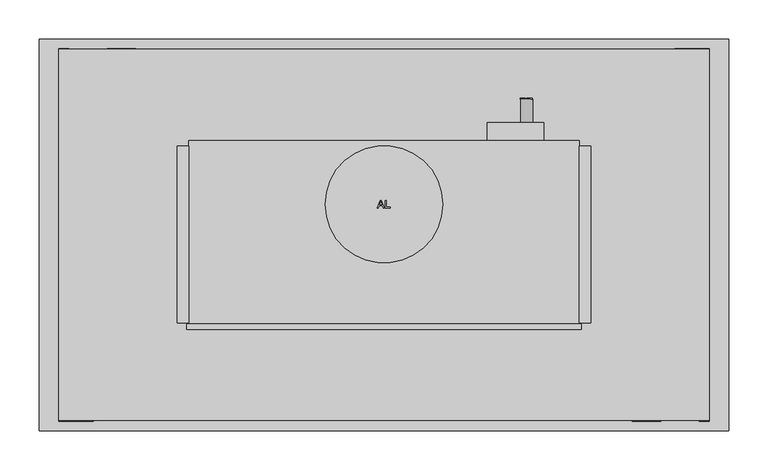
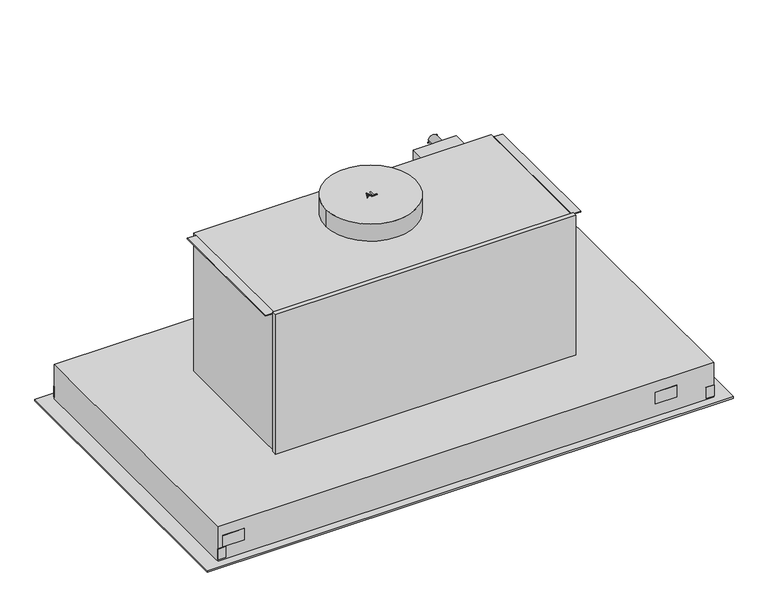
"""IFC4 building model written with IfcOpenShell, lengths in millimetres: proxy geometry, 10847540_I_DA2808_EDST : 28280855_I_10847540_DA2808_EDST."""

import ifcopenshell
import ifcopenshell.guid

model = None  # the IFC model being written
_history = None  # IfcOwnerHistory: only IFC2X3 demands one
_inside = {}  # id of a spatial element -> (the spatial element, [elements in it])
_under = {}  # id of a project, library or spatial element -> (it, [spatial elements below it])
_declared = {}  # id of a project -> (the project, [libraries it declares])
_typed = {}  # id of a type object -> (the type object, [elements of that type])
_made_of = {}  # id of a material, layer set ... -> (it, [elements and type objects made of it])


def new_model(schema):
    """Start an empty IFC model of exactly this schema.

    Asked for "IFC4X3", IfcOpenShell would pick the latest addendum, in which some entities
    have other attributes; the version numbers below select the first issue.
    IFC2X3 requires an IfcOwnerHistory on every rooted entity: one is made here for all.
    """
    global model, _history
    if schema == "IFC4X3":
        model = ifcopenshell.file(schema_version=(4, 3, 0, 0))
    else:
        model = ifcopenshell.file(schema=schema)
    _inside.clear()
    _under.clear()
    _declared.clear()
    _typed.clear()
    _made_of.clear()
    _history = None
    if model.schema == "IFC2X3":
        org = make("IfcOrganization", Name="unknown")
        user = make(
            "IfcPersonAndOrganization",
            ThePerson=make("IfcPerson", FamilyName="unknown"),
            TheOrganization=org,
        )
        app = make(
            "IfcApplication",
            ApplicationDeveloper=org,
            Version="unknown",
            ApplicationFullName="unknown",
            ApplicationIdentifier="unknown",
        )
        _history = make(
            "IfcOwnerHistory",
            OwningUser=user,
            OwningApplication=app,
            ChangeAction="ADDED",
            CreationDate=0,
        )
    return model


def make(cls, **values):
    """One entity of the class cls with the attributes given. An attribute that is None is left unset."""
    return model.create_entity(
        cls, **{name: value for name, value in values.items() if value is not None}
    )


def rooted(cls, **values):
    """An entity with a GlobalId (a new one), such as an element, a storey or a relation."""
    return make(cls, GlobalId=ifcopenshell.guid.new(), OwnerHistory=_history, **values)


def si_unit(unit_type, name, prefix=None):
    """IfcSIUnit, for example si_unit("LENGTHUNIT", "METRE", prefix="MILLI")."""
    return make("IfcSIUnit", UnitType=unit_type, Prefix=prefix, Name=name)


def assignment(units):
    """IfcUnitAssignment: the units of a project."""
    return None if units is None else make("IfcUnitAssignment", Units=units)


def point(xyz):
    """IfcCartesianPoint."""
    return None if xyz is None else make("IfcCartesianPoint", Coordinates=xyz)


def direction(xyz):
    """IfcDirection."""
    return None if xyz is None else make("IfcDirection", DirectionRatios=xyz)


def frame(location, z_axis=None, x_axis=None):
    """IfcAxis2Placement3D, a coordinate frame: its origin and axes. An axis left out is left unset."""
    return make(
        "IfcAxis2Placement3D",
        Location=point(location),
        Axis=direction(z_axis),
        RefDirection=direction(x_axis),
    )


def frame_2d(location, x_axis=None):
    """IfcAxis2Placement2D, a coordinate frame in the plane: its origin and x axis."""
    return make(
        "IfcAxis2Placement2D", Location=point(location), RefDirection=direction(x_axis)
    )


def origin():
    """The frame at (0, 0, 0) with its axes left unset."""
    return frame((0.0, 0.0, 0.0))


def place(relative_to, where):
    """IfcLocalPlacement: puts the frame where relative to a parent placement (None: the world)."""
    return make(
        "IfcLocalPlacement", PlacementRelTo=relative_to, RelativePlacement=where
    )


def context(
    kind, dimensions, precision=None, world=None, true_north=None, identifier=None
):
    """IfcGeometricRepresentationContext, for example the 3D "Model" context."""
    return make(
        "IfcGeometricRepresentationContext",
        ContextIdentifier=identifier,
        ContextType=kind,
        CoordinateSpaceDimension=dimensions,
        Precision=precision,
        WorldCoordinateSystem=world,
        TrueNorth=true_north,
    )


def project(units=None, contexts=None):
    """IfcProject with its units and contexts."""
    return rooted(
        "IfcProject",
        Name="project",
        RepresentationContexts=contexts,
        UnitsInContext=assignment(units),
    )


def spatial(cls, under=None, at=None, **own):
    """A site, building, storey or space (cls), placed at a placement, below another one or the project."""
    s = rooted(cls, ObjectPlacement=at, **own)
    if under is not None:
        _under.setdefault(under.id(), (under, []))[1].append(s)
    return s


def polyline(points):
    """IfcPolyline through the points."""
    return make("IfcPolyline", Points=[point(p) for p in points])


def circle_curve(where, radius):
    """IfcCircle in the frame where."""
    return make("IfcCircle", Position=where, Radius=radius)


def trimmed(basis, trim1, trim2, sense, master):
    """IfcTrimmedCurve: the piece of a basis curve between two trims."""
    return make(
        "IfcTrimmedCurve",
        BasisCurve=basis,
        Trim1=trim1,
        Trim2=trim2,
        SenseAgreement=sense,
        MasterRepresentation=master,
    )


def segment(curve, same_sense, transition):
    """IfcCompositeCurveSegment."""
    return make(
        "IfcCompositeCurveSegment",
        Transition=transition,
        SameSense=same_sense,
        ParentCurve=curve,
    )


def composite_curve(segments, self_intersect=None):
    """IfcCompositeCurve: segments joined end to end."""
    return make("IfcCompositeCurve", Segments=segments, SelfIntersect=self_intersect)


def outline(outer, holes=None, kind="AREA"):
    """IfcArbitraryClosedProfileDef: a profile drawn as a closed curve; with holes, ...WithVoids."""
    if holes is None:
        return make("IfcArbitraryClosedProfileDef", ProfileType=kind, OuterCurve=outer)
    return make(
        "IfcArbitraryProfileDefWithVoids",
        ProfileType=kind,
        OuterCurve=outer,
        InnerCurves=holes,
    )


def extrude(swept, where, along, depth):
    """IfcExtrudedAreaSolid: the profile swept, set in the frame where, extruded along a direction by depth."""
    return make(
        "IfcExtrudedAreaSolid",
        SweptArea=swept,
        Position=where,
        ExtrudedDirection=direction(along),
        Depth=depth,
    )


def faces_of(points, faces, orient=None, outer=None):
    """IfcFace entities. A face is a list of loops; a loop is a list of indices into points, from 0.

    orient and outer hold one flag for each loop. By default every Orientation is true, the
    first loop of a face is its IfcFaceOuterBound and the others are IfcFaceBound.
    """
    made = []
    for i, loops in enumerate(faces):
        bounds = []
        for j, loop in enumerate(loops):
            is_outer = j == 0 if outer is None else outer[i][j]
            bounds.append(
                make(
                    "IfcFaceOuterBound" if is_outer else "IfcFaceBound",
                    Bound=make("IfcPolyLoop", Polygon=[points[k] for k in loop]),
                    Orientation=True if orient is None else orient[i][j],
                )
            )
        made.append(make("IfcFace", Bounds=bounds))
    return made


def faceted_brep(points, faces, orient=None, outer=None, voids=None):
    """IfcFacetedBrep: a solid bounded by flat faces; with voids (closed shells), ...WithVoids."""
    shared = [point(p) for p in points]
    hull = make("IfcClosedShell", CfsFaces=faces_of(shared, faces, orient, outer))
    if voids is None:
        return make("IfcFacetedBrep", Outer=hull)
    return make(
        "IfcFacetedBrepWithVoids",
        Outer=hull,
        Voids=[
            make(cls, CfsFaces=faces_of(shared, fs, o, b)) for cls, fs, o, b in voids
        ],
    )


def shape(context_of_items, identifier, shape_type, items):
    """IfcShapeRepresentation: the items that make up one representation, for example the "Body"."""
    return make(
        "IfcShapeRepresentation",
        ContextOfItems=context_of_items,
        RepresentationIdentifier=identifier,
        RepresentationType=shape_type,
        Items=items,
    )


def source(mapping_origin, context_of_items, identifier, shape_type, items):
    """IfcRepresentationMap: a shape defined once, which mapped items show again and again."""
    return make(
        "IfcRepresentationMap",
        MappingOrigin=mapping_origin,
        MappedRepresentation=shape(context_of_items, identifier, shape_type, items),
    )


def transform(
    local_origin,
    x_axis=None,
    y_axis=None,
    z_axis=None,
    scale=None,
    scale2=None,
    scale3=None,
    uniform=True,
):
    """IfcCartesianTransformationOperator3D, or its non-uniform kind. x_axis, y_axis, z_axis: its Axis1, 2, 3."""
    if uniform:
        return make(
            "IfcCartesianTransformationOperator3D",
            Axis1=direction(x_axis),
            Axis2=direction(y_axis),
            LocalOrigin=point(local_origin),
            Scale=scale,
            Axis3=direction(z_axis),
        )
    return make(
        "IfcCartesianTransformationOperator3DnonUniform",
        Axis1=direction(x_axis),
        Axis2=direction(y_axis),
        LocalOrigin=point(local_origin),
        Scale=scale,
        Axis3=direction(z_axis),
        Scale2=scale2,
        Scale3=scale3,
    )


def mapped(mapping_source, mapping_target):
    """IfcMappedItem: shows the shape of a source again, moved by a transform."""
    return make(
        "IfcMappedItem", MappingSource=mapping_source, MappingTarget=mapping_target
    )


def made_of(thing, what):
    """Note that an element or type object is made of a material, layer set ...; save() writes the relation."""
    if what is not None:
        _made_of.setdefault(what.id(), (what, []))[1].append(thing)
    return thing


def element(
    cls,
    number,
    at=None,
    inside=None,
    cuts=None,
    type_object=None,
    material=None,
    context=None,
    identifier="Body",
    shape_type=None,
    held_by="IfcProductDefinitionShape",
    body=None,
    shapes=None,
    **own,
):
    """One element of the class cls, such as IfcWall. Its Tag is "e" and its number.

    at: its placement. inside: the storey or other place that contains it. cuts: it is an
    opening in that element (IfcRelVoidsElement). A single representation is given by context,
    identifier, shape_type and body (its items); several are given by shapes. held_by: the class
    of the entity that holds the representations. save() writes the other relations.
    """
    e = rooted(cls, Tag="e%d" % number, ObjectPlacement=at, **own)
    if body is not None:
        shapes = [shape(context, identifier, shape_type, body)]
    if shapes is not None:
        e.Representation = make(held_by, Representations=shapes)
    if inside is not None:
        _inside.setdefault(inside.id(), (inside, []))[1].append(e)
    if cuts is not None:
        rooted(
            "IfcRelVoidsElement", RelatingBuildingElement=cuts, RelatedOpeningElement=e
        )
    if type_object is not None:
        _typed.setdefault(type_object.id(), (type_object, []))[1].append(e)
    return made_of(e, material)


def aggregate(whole, parts):
    """IfcRelAggregates: a whole, such as a stair, and the parts it consists of."""
    return rooted("IfcRelAggregates", RelatingObject=whole, RelatedObjects=parts)


def save(model, path):
    """Write the relations noted so far, then the file.

    IfcRelAggregates (storeys below a building ...), IfcRelContainedInSpatialStructure (elements
    in a storey), IfcRelDefinesByType, IfcRelAssociatesMaterial and IfcRelDeclares: one each for
    every whole, place, type object, material and project.
    """
    for whole, parts in _under.values():
        aggregate(whole, parts)
    for where, things in _inside.values():
        rooted(
            "IfcRelContainedInSpatialStructure",
            RelatedElements=things,
            RelatingStructure=where,
        )
    for kind, things in _typed.values():
        rooted("IfcRelDefinesByType", RelatedObjects=things, RelatingType=kind)
    for what, things in _made_of.values():
        rooted("IfcRelAssociatesMaterial", RelatedObjects=things, RelatingMaterial=what)
    for by, libraries in _declared.values():
        rooted("IfcRelDeclares", RelatingContext=by, RelatedDefinitions=libraries)
    model.write(path)


def specialty_equipment_4885083e(model_context):
    return source(origin(), model_context, "Body", "SolidModel", [
        extrude(outline(polyline([(264.0, 113.5), (264.0, -112.5), (249.0, -112.5), (249.0, 113.5), (264.0, 113.5)])), frame((0.0, 0.0, 305.5), z_axis=(0.0, 0.0, 1.0), x_axis=(1.0, 0.0, 0.0)), (0.0, 0.0, 1.0), 1.0),
        extrude(outline(polyline([(-249.0, 113.5), (-249.0, -112.5), (-264.0, -112.5), (-264.0, 113.5), (-249.0, 113.5)])), frame((0.0, 0.0, 305.5), z_axis=(0.0, 0.0, 1.0), x_axis=(1.0, 0.0, 0.0)), (0.0, 0.0, 1.0), 1.0),
        extrude(outline(polyline([(295.0511348, 182.159796), (293.7808945, 182.159796), (293.7808945, 188.1229862), (290.8106407, 188.1229862), (290.8106407, 182.4702508), (289.5451487, 182.4702508), (289.5451487, 188.1214776), (286.2573414, 188.1214776), (286.2573414, 181.9967768), (285.0001403, 181.9967768), (285.0001403, 189.3768996), (295.0511348, 189.3768996), (295.0511348, 182.159796)])), frame((0.0, 173.5, 0.0), z_axis=(0.0, 1.0, 0.0), x_axis=(0.0, 0.0, 1.0)), (0.0, 0.0, 1.0), 1.0),
        extrude(outline(polyline([(285.0013119, 180.1167478), (295.0460887, 180.1167478), (295.0460887, 178.8637923), (286.2599068, 178.8637923), (286.2599068, 173.8314936), (285.0013119, 173.8314936), (285.0013119, 180.1167478)])), frame((0.0, 173.5, 0.0), z_axis=(0.0, 1.0, 0.0), x_axis=(0.0, 0.0, 1.0)), (0.0, 0.0, 1.0), 1.0),
        extrude(outline(composite_curve([segment(trimmed(circle_curve(frame_2d((290.0, 182.0)), 7.5), [point((290.0, 189.5))], [point((290.0, 174.5))], False, "CARTESIAN"), True, "CONTINUOUS"), segment(trimmed(circle_curve(frame_2d((290.0, 182.0)), 7.5), [point((290.0, 174.5))], [point((290.0, 189.5))], False, "CARTESIAN"), True, "CONTINUOUS")], self_intersect=False)), frame((0.0, 143.5, 0.0), z_axis=(0.0, 1.0, 0.0), x_axis=(0.0, 0.0, 1.0)), (0.0, 0.0, 1.0), 30.0),
        extrude(outline(polyline([(402.0, 238.0), (415.0, 238.0), (415.0, 237.0), (402.0, 237.0), (402.0, 238.0)])), frame((0.0, 0.0, 3.0), z_axis=(0.0, 0.0, 1.0), x_axis=(1.0, 0.0, 0.0)), (0.0, 0.0, 1.0), 19.0),
        extrude(outline(polyline([(-415.0, 238.0), (-402.0, 238.0), (-402.0, 237.0), (-415.0, 237.0), (-415.0, 238.0)])), frame((0.0, 0.0, 3.0), z_axis=(0.0, 0.0, 1.0), x_axis=(1.0, 0.0, 0.0)), (0.0, 0.0, 1.0), 19.0),
        extrude(outline(polyline([(415.0, -238.0), (402.0, -238.0), (402.0, -237.0), (415.0, -237.0), (415.0, -238.0)])), frame((0.0, 0.0, 3.0), z_axis=(0.0, 0.0, 1.0), x_axis=(1.0, 0.0, 0.0)), (0.0, 0.0, 1.0), 19.0),
        extrude(outline(polyline([(-402.0, -238.0), (-415.0, -238.0), (-415.0, -237.0), (-402.0, -237.0), (-402.0, -238.0)])), frame((0.0, 0.0, 3.0), z_axis=(0.0, 0.0, 1.0), x_axis=(1.0, 0.0, 0.0)), (0.0, 0.0, 1.0), 19.0),
        extrude(outline(polyline([(-353.0, 238.0), (-317.0, 238.0), (-317.0, 237.0), (-353.0, 237.0), (-353.0, 238.0)])), frame((0.0, 0.0, 23.0), z_axis=(0.0, 0.0, 1.0), x_axis=(1.0, 0.0, 0.0)), (0.0, 0.0, 1.0), 20.0),
        extrude(outline(polyline([(371.0, 238.0), (407.0, 238.0), (407.0, 237.0), (371.0, 237.0), (371.0, 238.0)])), frame((0.0, 0.0, 23.0), z_axis=(0.0, 0.0, 1.0), x_axis=(1.0, 0.0, 0.0)), (0.0, 0.0, 1.0), 20.0),
        extrude(outline(polyline([(353.0, -238.0), (317.0, -238.0), (317.0, -237.0), (353.0, -237.0), (353.0, -238.0)])), frame((0.0, 0.0, 23.0), z_axis=(0.0, 0.0, 1.0), x_axis=(1.0, 0.0, 0.0)), (0.0, 0.0, 1.0), 20.0),
        extrude(outline(polyline([(-371.0, -238.0), (-407.0, -238.0), (-407.0, -237.0), (-371.0, -237.0), (-371.0, -238.0)])), frame((0.0, 0.0, 23.0), z_axis=(0.0, 0.0, 1.0), x_axis=(1.0, 0.0, 0.0)), (0.0, 0.0, 1.0), 20.0),
        extrude(outline(polyline([(1.8929584, 33.993397), (1.8929584, 44.062269), (3.1573824, 44.062269), (3.1573824, 35.2718046), (8.1573824, 35.2718046), (8.1573824, 33.993397), (1.8929584, 33.993397)])), frame((0.0, 0.0, 336.5), z_axis=(0.0, 0.0, 1.0), x_axis=(1.0, 0.0, 0.0)), (0.0, 0.0, 1.0), 1.0),
        extrude(outline(polyline([(-4.529376, 44.048794), (-3.4760594, 44.048794), (0.5383329, 34.0036868), (-0.792731, 34.0036868), (-1.9341654, 37.1397522), (-6.0643804, 37.1397522), (-7.2108508, 33.9898508), (-8.5504039, 33.9898508), (-4.529376, 44.048794)]), holes=[polyline([(-5.5908857, 38.4346794), (-2.4169702, 38.4346794), (-4.0039033, 42.7948776), (-5.5908857, 38.4346794)])]), frame((0.0, 0.0, 336.5), z_axis=(0.0, 0.0, 1.0), x_axis=(1.0, 0.0, 0.0)), (0.0, 0.0, 1.0), 1.0),
        extrude(outline(composite_curve([segment(trimmed(circle_curve(frame_2d((0.0, 39.0)), 75.0), [point((75.0, 39.0))], [point((-75.0, 39.0))], False, "CARTESIAN"), True, "CONTINUOUS"), segment(trimmed(circle_curve(frame_2d((0.0, 39.0)), 75.0), [point((-75.0, 39.0))], [point((75.0, 39.0))], False, "CARTESIAN"), True, "CONTINUOUS")], self_intersect=False)), frame((0.0, 0.0, 306.5), z_axis=(0.0, 0.0, 1.0), x_axis=(1.0, 0.0, 0.0)), (0.0, 0.0, 1.0), 30.0),
        faceted_brep([(340.0, -219.0, 43.0), (340.0, 219.0, 43.0), (340.0, 219.0, 31.0), (340.0, 219.0, 0.0), (340.0, -219.0, 0.0), (340.0, -219.0, 31.0), (-415.0, -237.0, 61.0), (-415.0, 237.0, 61.0), (-415.0, 237.0, 0.0), (-415.0, -237.0, 0.0), (415.0, -237.0, 61.0), (415.0, -237.0, 0.0), (415.0, 237.0, 61.0), (415.0, 237.0, 0.0), (-340.0, 219.0, 0.0), (-340.0, -219.0, 0.0), (-340.0, -219.0, 43.0), (-340.0, 219.0, 43.0), (-340.0, 219.0, 31.0), (-340.0, -219.0, 31.0)], [[[0, 1, 2, 3, 4, 5]], [[6, 7, 8, 9]], [[10, 6, 9, 11]], [[12, 7, 6, 10]], [[13, 11, 9, 8], [3, 14, 15, 4]], [[7, 12, 13, 8]], [[12, 10, 11, 13]], [[1, 0, 16, 17]], [[1, 17, 18, 14, 3, 2]], [[17, 16, 19, 15, 14, 18]], [[16, 0, 5, 4, 15, 19]]]),
        extrude(outline(polyline([(249.0, 120.5), (249.0, -113.5), (-249.0, -113.5), (-249.0, 120.5), (249.0, 120.5)])), frame((0.0, 0.0, 61.0), z_axis=(0.0, 0.0, 1.0), x_axis=(1.0, 0.0, 0.0)), (0.0, 0.0, 1.0), 245.5),
        extrude(outline(polyline([(251.5, -113.5), (251.5, -120.5), (-251.5, -120.5), (-251.5, -113.5), (251.5, -113.5)])), frame((0.0, 0.0, 61.0), z_axis=(0.0, 0.0, 1.0), x_axis=(1.0, 0.0, 0.0)), (0.0, 0.0, 1.0), 248.0),
        extrude(outline(polyline([(324.5, 203.5), (324.5, -203.5), (-324.5, -203.5), (-324.5, 203.5), (324.5, 203.5)])), frame((0.0, 0.0, -3.0), z_axis=(0.0, 0.0, 1.0), x_axis=(1.0, 0.0, 0.0)), (0.0, 0.0, 1.0), 9.0),
        extrude(outline(polyline([(132.0, 143.5), (204.0, 143.5), (204.0, 120.5), (132.0, 120.5), (132.0, 143.5)])), frame((0.0, 0.0, 280.0), z_axis=(0.0, 0.0, 1.0), x_axis=(1.0, 0.0, 0.0)), (0.0, 0.0, 1.0), 26.0),
        extrude(outline(polyline([(440.0, 250.0), (440.0, -250.0), (-440.0, -250.0), (-440.0, 250.0), (440.0, 250.0)]), holes=[polyline([(340.0, -219.0), (340.0, 219.0), (-340.0, 219.0), (-340.0, -219.0), (340.0, -219.0)]), composite_curve([segment(trimmed(circle_curve(frame_2d((-385.0, -150.0)), 29.0), [point((-356.0, -150.0))], [point((-414.0, -150.0))], True, "CARTESIAN"), True, "CONTINUOUS"), segment(trimmed(circle_curve(frame_2d((-385.0, -150.0)), 29.0), [point((-414.0, -150.0))], [point((-356.0, -150.0))], True, "CARTESIAN"), True, "CONTINUOUS")], self_intersect=False), composite_curve([segment(trimmed(circle_curve(frame_2d((385.0, -150.0)), 29.0), [point((414.0, -150.0))], [point((356.0, -150.0))], True, "CARTESIAN"), True, "CONTINUOUS"), segment(trimmed(circle_curve(frame_2d((385.0, -150.0)), 29.0), [point((356.0, -150.0))], [point((414.0, -150.0))], True, "CARTESIAN"), True, "CONTINUOUS")], self_intersect=False), composite_curve([segment(trimmed(circle_curve(frame_2d((-385.0, 150.0)), 29.0), [point((-356.0, 150.0))], [point((-414.0, 150.0))], True, "CARTESIAN"), True, "CONTINUOUS"), segment(trimmed(circle_curve(frame_2d((-385.0, 150.0)), 29.0), [point((-414.0, 150.0))], [point((-356.0, 150.0))], True, "CARTESIAN"), True, "CONTINUOUS")], self_intersect=False), composite_curve([segment(trimmed(circle_curve(frame_2d((385.0, 150.0)), 29.0), [point((414.0, 150.0))], [point((356.0, 150.0))], True, "CARTESIAN"), True, "CONTINUOUS"), segment(trimmed(circle_curve(frame_2d((385.0, 150.0)), 29.0), [point((356.0, 150.0))], [point((414.0, 150.0))], True, "CARTESIAN"), True, "CONTINUOUS")], self_intersect=False)]), frame((0.0, 0.0, -3.0), z_axis=(0.0, 0.0, 1.0), x_axis=(1.0, 0.0, 0.0)), (0.0, 0.0, 1.0), 3.0),
        extrude(outline(polyline([(331.0, 210.0), (331.0, -210.0), (16.0, -210.0), (16.0, 210.0), (331.0, 210.0)])), frame((0.0, 0.0, 35.5), z_axis=(0.0, 0.0, 1.0), x_axis=(1.0, 0.0, 0.0)), (0.0, 0.0, 1.0), 6.0),
        extrude(outline(polyline([(340.0, 219.0), (340.0, -219.0), (7.0, -219.0), (7.0, 219.0), (340.0, 219.0)]), holes=[polyline([(331.0, 210.0), (16.0, 210.0), (16.0, -210.0), (331.0, -210.0), (331.0, 210.0)])]), frame((0.0, 0.0, 34.0), z_axis=(0.0, 0.0, 1.0), x_axis=(1.0, 0.0, 0.0)), (0.0, 0.0, 1.0), 9.0),
        extrude(outline(polyline([(-16.0, 210.0), (-16.0, -210.0), (-331.0, -210.0), (-331.0, 210.0), (-16.0, 210.0)])), frame((0.0, 0.0, 35.5), z_axis=(0.0, 0.0, 1.0), x_axis=(1.0, 0.0, 0.0)), (0.0, 0.0, 1.0), 6.0),
        extrude(outline(polyline([(-7.0, 219.0), (-7.0, -219.0), (-340.0, -219.0), (-340.0, 219.0), (-7.0, 219.0)]), holes=[polyline([(-16.0, 210.0), (-331.0, 210.0), (-331.0, -210.0), (-16.0, -210.0), (-16.0, 210.0)])]), frame((0.0, 0.0, 34.0), z_axis=(0.0, 0.0, 1.0), x_axis=(1.0, 0.0, 0.0)), (0.0, 0.0, 1.0), 9.0),
        extrude(outline(polyline([(16.0, 16.5), (59.0, 16.5), (59.0, -16.5), (16.0, -16.5), (16.0, 16.5)]), holes=[polyline([(22.5, 10.0), (22.5, -10.0), (52.5, -10.0), (52.5, 10.0), (22.5, 10.0)])]), frame((0.0, 0.0, 41.5), z_axis=(0.0, 0.0, 1.0), x_axis=(1.0, 0.0, 0.0)), (0.0, 0.0, 1.0), 1.5),
        extrude(outline(polyline([(-16.0, 16.5), (-16.0, -16.5), (-59.0, -16.5), (-59.0, 16.5), (-16.0, 16.5)]), holes=[polyline([(-22.5, 10.0), (-52.5, 10.0), (-52.5, -10.0), (-22.5, -10.0), (-22.5, 10.0)])]), frame((0.0, 0.0, 41.5), z_axis=(0.0, 0.0, 1.0), x_axis=(1.0, 0.0, 0.0)), (0.0, 0.0, 1.0), 1.5),
        extrude(outline(polyline([(365.0, 78.0), (365.0, 52.5), (357.0, 52.5), (357.0, 78.0), (365.0, 78.0)])), frame((0.0, 0.0, -4.0), z_axis=(0.0, 0.0, 1.0), x_axis=(1.0, 0.0, 0.0)), (0.0, 0.0, 1.0), 1.0),
        extrude(outline(polyline([(357.0, -52.5), (365.0, -52.5), (365.0, -78.0), (357.0, -78.0), (357.0, -52.5)])), frame((0.0, 0.0, -4.0), z_axis=(0.0, 0.0, 1.0), x_axis=(1.0, 0.0, 0.0)), (0.0, 0.0, 1.0), 1.0),
        extrude(outline(polyline([(365.0, 52.0), (365.0, 26.5), (357.0, 26.5), (357.0, 52.0), (365.0, 52.0)])), frame((0.0, 0.0, -4.0), z_axis=(0.0, 0.0, 1.0), x_axis=(1.0, 0.0, 0.0)), (0.0, 0.0, 1.0), 1.0),
        extrude(outline(polyline([(357.0, -52.0), (357.0, -26.5), (365.0, -26.5), (365.0, -52.0), (357.0, -52.0)])), frame((0.0, 0.0, -4.0), z_axis=(0.0, 0.0, 1.0), x_axis=(1.0, 0.0, 0.0)), (0.0, 0.0, 1.0), 1.0),
        extrude(outline(polyline([(365.0, 26.0), (365.0, -26.0), (357.0, -26.0), (357.0, 26.0), (365.0, 26.0)])), frame((0.0, 0.0, -4.0), z_axis=(0.0, 0.0, 1.0), x_axis=(1.0, 0.0, 0.0)), (0.0, 0.0, 1.0), 1.0),
        extrude(outline(composite_curve([segment(trimmed(circle_curve(frame_2d((-385.0, -150.0)), 27.5), [point((-385.0, -122.5))], [point((-385.0, -177.5))], False, "CARTESIAN"), True, "CONTINUOUS"), segment(trimmed(circle_curve(frame_2d((-385.0, -150.0)), 27.5), [point((-385.0, -177.5))], [point((-385.0, -122.5))], False, "CARTESIAN"), True, "CONTINUOUS")], self_intersect=False)), frame((0.0, 0.0, -1.5), z_axis=(0.0, 0.0, 1.0), x_axis=(1.0, 0.0, 0.0)), (0.0, 0.0, 1.0), 1.0),
        extrude(outline(composite_curve([segment(trimmed(circle_curve(frame_2d((385.0, -150.0)), 27.5), [point((385.0, -122.5))], [point((385.0, -177.5))], False, "CARTESIAN"), True, "CONTINUOUS"), segment(trimmed(circle_curve(frame_2d((385.0, -150.0)), 27.5), [point((385.0, -177.5))], [point((385.0, -122.5))], False, "CARTESIAN"), True, "CONTINUOUS")], self_intersect=False)), frame((0.0, 0.0, -1.5), z_axis=(0.0, 0.0, 1.0), x_axis=(1.0, 0.0, 0.0)), (0.0, 0.0, 1.0), 1.0),
        extrude(outline(composite_curve([segment(trimmed(circle_curve(frame_2d((-385.0, 150.0)), 27.5), [point((-385.0, 177.5))], [point((-385.0, 122.5))], False, "CARTESIAN"), True, "CONTINUOUS"), segment(trimmed(circle_curve(frame_2d((-385.0, 150.0)), 27.5), [point((-385.0, 122.5))], [point((-385.0, 177.5))], False, "CARTESIAN"), True, "CONTINUOUS")], self_intersect=False)), frame((0.0, 0.0, -1.5), z_axis=(0.0, 0.0, 1.0), x_axis=(1.0, 0.0, 0.0)), (0.0, 0.0, 1.0), 1.0),
        extrude(outline(composite_curve([segment(trimmed(circle_curve(frame_2d((385.0, 150.0)), 27.5), [point((385.0, 177.5))], [point((385.0, 122.5))], False, "CARTESIAN"), True, "CONTINUOUS"), segment(trimmed(circle_curve(frame_2d((385.0, 150.0)), 27.5), [point((385.0, 122.5))], [point((385.0, 177.5))], False, "CARTESIAN"), True, "CONTINUOUS")], self_intersect=False)), frame((0.0, 0.0, -1.5), z_axis=(0.0, 0.0, 1.0), x_axis=(1.0, 0.0, 0.0)), (0.0, 0.0, 1.0), 1.0),
        extrude(outline(composite_curve([segment(trimmed(circle_curve(frame_2d((-385.0, -150.0)), 27.5), [point((-357.5, -150.0))], [point((-412.5, -150.0))], False, "CARTESIAN"), True, "CONTINUOUS"), segment(trimmed(circle_curve(frame_2d((-385.0, -150.0)), 27.5), [point((-412.5, -150.0))], [point((-357.5, -150.0))], False, "CARTESIAN"), True, "CONTINUOUS")], self_intersect=False)), frame((0.0, 0.0, -2.5), z_axis=(0.0, 0.0, 1.0), x_axis=(1.0, 0.0, 0.0)), (0.0, 0.0, 1.0), 1.0),
        extrude(outline(composite_curve([segment(trimmed(circle_curve(frame_2d((385.0, -150.0)), 27.5), [point((412.5, -150.0))], [point((357.5, -150.0))], False, "CARTESIAN"), True, "CONTINUOUS"), segment(trimmed(circle_curve(frame_2d((385.0, -150.0)), 27.5), [point((357.5, -150.0))], [point((412.5, -150.0))], False, "CARTESIAN"), True, "CONTINUOUS")], self_intersect=False)), frame((0.0, 0.0, -2.5), z_axis=(0.0, 0.0, 1.0), x_axis=(1.0, 0.0, 0.0)), (0.0, 0.0, 1.0), 1.0),
        extrude(outline(composite_curve([segment(trimmed(circle_curve(frame_2d((-385.0, 150.0)), 27.5), [point((-357.5, 150.0))], [point((-412.5, 150.0))], False, "CARTESIAN"), True, "CONTINUOUS"), segment(trimmed(circle_curve(frame_2d((-385.0, 150.0)), 27.5), [point((-412.5, 150.0))], [point((-357.5, 150.0))], False, "CARTESIAN"), True, "CONTINUOUS")], self_intersect=False)), frame((0.0, 0.0, -2.5), z_axis=(0.0, 0.0, 1.0), x_axis=(1.0, 0.0, 0.0)), (0.0, 0.0, 1.0), 1.0),
        extrude(outline(composite_curve([segment(trimmed(circle_curve(frame_2d((385.0, 150.0)), 27.0), [point((412.0, 150.0))], [point((358.0, 150.0))], False, "CARTESIAN"), True, "CONTINUOUS"), segment(trimmed(circle_curve(frame_2d((385.0, 150.0)), 27.0), [point((358.0, 150.0))], [point((412.0, 150.0))], False, "CARTESIAN"), True, "CONTINUOUS")], self_intersect=False)), frame((0.0, 0.0, -2.5), z_axis=(0.0, 0.0, 1.0), x_axis=(1.0, 0.0, 0.0)), (0.0, 0.0, 1.0), 1.0),
        extrude(outline(composite_curve([segment(trimmed(circle_curve(frame_2d((385.0, -150.0)), 28.5), [point((413.5, -150.0))], [point((356.5, -150.0))], False, "CARTESIAN"), True, "CONTINUOUS"), segment(trimmed(circle_curve(frame_2d((385.0, -150.0)), 28.5), [point((356.5, -150.0))], [point((413.5, -150.0))], False, "CARTESIAN"), True, "CONTINUOUS")], self_intersect=False), holes=[composite_curve([segment(trimmed(circle_curve(frame_2d((385.0, -150.0)), 27.5), [point((412.5, -150.0))], [point((357.5, -150.0))], True, "CARTESIAN"), True, "CONTINUOUS"), segment(trimmed(circle_curve(frame_2d((385.0, -150.0)), 27.5), [point((357.5, -150.0))], [point((412.5, -150.0))], True, "CARTESIAN"), True, "CONTINUOUS")], self_intersect=False)]), frame((0.0, 0.0, -2.5), z_axis=(0.0, 0.0, 1.0), x_axis=(1.0, 0.0, 0.0)), (0.0, 0.0, 1.0), 2.0),
        extrude(outline(composite_curve([segment(trimmed(circle_curve(frame_2d((-385.0, -150.0)), 28.5), [point((-356.5, -150.0))], [point((-413.5, -150.0))], False, "CARTESIAN"), True, "CONTINUOUS"), segment(trimmed(circle_curve(frame_2d((-385.0, -150.0)), 28.5), [point((-413.5, -150.0))], [point((-356.5, -150.0))], False, "CARTESIAN"), True, "CONTINUOUS")], self_intersect=False), holes=[composite_curve([segment(trimmed(circle_curve(frame_2d((-385.0, -150.0)), 27.5), [point((-357.5, -150.0))], [point((-412.5, -150.0))], True, "CARTESIAN"), True, "CONTINUOUS"), segment(trimmed(circle_curve(frame_2d((-385.0, -150.0)), 27.5), [point((-412.5, -150.0))], [point((-357.5, -150.0))], True, "CARTESIAN"), True, "CONTINUOUS")], self_intersect=False)]), frame((0.0, 0.0, -2.5), z_axis=(0.0, 0.0, 1.0), x_axis=(1.0, 0.0, 0.0)), (0.0, 0.0, 1.0), 2.0),
        extrude(outline(composite_curve([segment(trimmed(circle_curve(frame_2d((-385.0, 150.0)), 28.5), [point((-356.5, 150.0))], [point((-413.5, 150.0))], False, "CARTESIAN"), True, "CONTINUOUS"), segment(trimmed(circle_curve(frame_2d((-385.0, 150.0)), 28.5), [point((-413.5, 150.0))], [point((-356.5, 150.0))], False, "CARTESIAN"), True, "CONTINUOUS")], self_intersect=False), holes=[composite_curve([segment(trimmed(circle_curve(frame_2d((-385.0, 150.0)), 27.5), [point((-357.5, 150.0))], [point((-412.5, 150.0))], True, "CARTESIAN"), True, "CONTINUOUS"), segment(trimmed(circle_curve(frame_2d((-385.0, 150.0)), 27.5), [point((-412.5, 150.0))], [point((-357.5, 150.0))], True, "CARTESIAN"), True, "CONTINUOUS")], self_intersect=False)]), frame((0.0, 0.0, -2.5), z_axis=(0.0, 0.0, 1.0), x_axis=(1.0, 0.0, 0.0)), (0.0, 0.0, 1.0), 2.0),
        extrude(outline(composite_curve([segment(trimmed(circle_curve(frame_2d((385.0, 150.0)), 28.5), [point((413.5, 150.0))], [point((356.5, 150.0))], False, "CARTESIAN"), True, "CONTINUOUS"), segment(trimmed(circle_curve(frame_2d((385.0, 150.0)), 28.5), [point((356.5, 150.0))], [point((413.5, 150.0))], False, "CARTESIAN"), True, "CONTINUOUS")], self_intersect=False), holes=[composite_curve([segment(trimmed(circle_curve(frame_2d((385.0, 150.0)), 27.5), [point((412.5, 150.0))], [point((357.5, 150.0))], True, "CARTESIAN"), True, "CONTINUOUS"), segment(trimmed(circle_curve(frame_2d((385.0, 150.0)), 27.5), [point((357.5, 150.0))], [point((412.5, 150.0))], True, "CARTESIAN"), True, "CONTINUOUS")], self_intersect=False)]), frame((0.0, 0.0, -2.5), z_axis=(0.0, 0.0, 1.0), x_axis=(1.0, 0.0, 0.0)), (0.0, 0.0, 1.0), 2.0),
    ])


if __name__ == "__main__":
    model = new_model("IFC4")
    model_context = context("Model", 3, world=origin())
    ifc_project = project(units=[si_unit("LENGTHUNIT", "METRE", prefix="MILLI")], contexts=[model_context])
    site = spatial("IfcSite", under=ifc_project)
    building = spatial("IfcBuilding", under=site)
    placement = place(None, origin())
    specialty_equipment_shape = specialty_equipment_4885083e(model_context)
    element("IfcBuildingElementProxy", 1, Name="10847540_I_DA2808_EDST : 28280855_I_10847540_DA2808_EDST", ObjectType="10847540_I_DA2808_EDST : 28280855_I_10847540_DA2808_EDST", at=placement, inside=building, context=model_context, shape_type="MappedRepresentation", body=[
        mapped(specialty_equipment_shape, transform((0.0, 0.0, 0.0), x_axis=(1.0, 0.0, 0.0), y_axis=(0.0, 1.0, 0.0), z_axis=(0.0, 0.0, 1.0))),
    ])
    save(model, "model.ifc")
